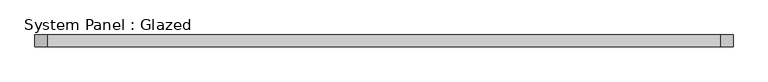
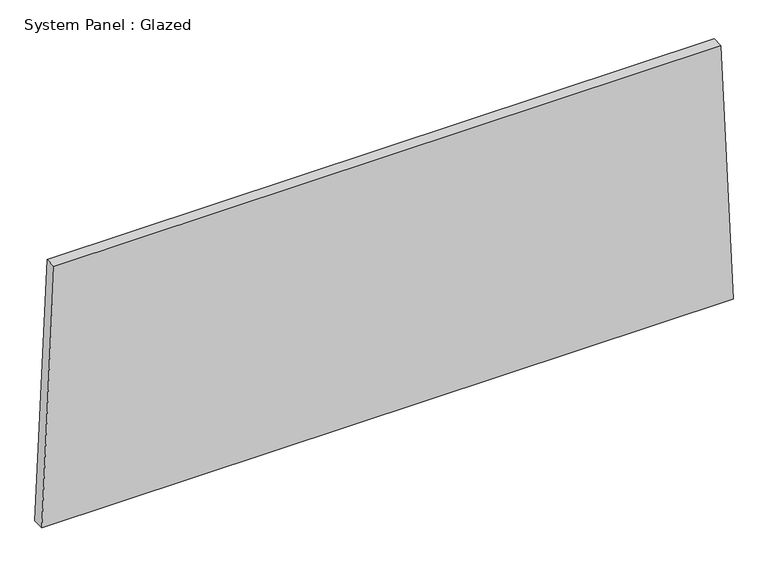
"""IFC4 building model written with IfcOpenShell, lengths in millimetres: plate geometry, System Panel : Glazed."""

from ifc_helpers import new_model, si_unit, frame, origin, place, context, project, spatial, polyline, outline, extrude, source, transform, mapped, element, save


def system_panel_glazed_130e820a(model_context):
    return source(origin(), model_context, "Body", "SweptSolid", [
        extrude(outline(polyline([(0.0, -740.6371675), (0.0, 740.6371675), (583.5928452, 714.5710238), (583.5928452, -714.5710238), (0.0, -740.6371675)])), frame((0.0, -44.45, 0.0), z_axis=(0.0, 1.0, 0.0), x_axis=(0.0, 0.0, 1.0)), (0.0, 0.0, 1.0), 25.4),
    ])


if __name__ == "__main__":
    model = new_model("IFC4")
    model_context = context("Model", 3, world=origin())
    ifc_project = project(units=[si_unit("LENGTHUNIT", "METRE", prefix="MILLI")], contexts=[model_context])
    site = spatial("IfcSite", under=ifc_project)
    building = spatial("IfcBuilding", under=site)
    placement = place(None, origin())
    system_panel_glazed_shape = system_panel_glazed_130e820a(model_context)
    element("IfcPlate", 1, ObjectType="System Panel : Glazed", at=placement, inside=building, context=model_context, shape_type="MappedRepresentation", body=[
        mapped(system_panel_glazed_shape, transform((0.0, 0.0, 0.0), x_axis=(1.0, 0.0, 0.0), y_axis=(0.0, 1.0, 0.0), z_axis=(0.0, 0.0, 1.0))),
    ])
    save(model, "model.ifc")
